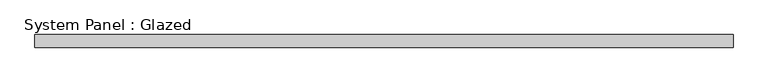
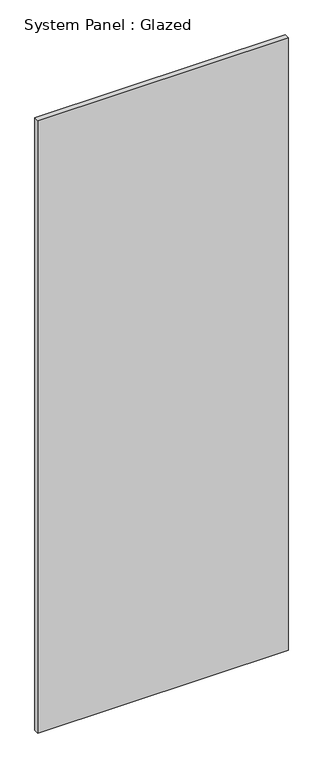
"""IFC4 building model written with IfcOpenShell, lengths in millimetres: plate geometry, System Panel : Glazed."""

from ifc_helpers import new_model, si_unit, origin, origin_with_axes, place, context, project, spatial, polyline, outline, extrude, source, transform, mapped, element, save


def system_panel_glazed_c99a592d(model_context):
    return source(origin(), model_context, "Body", "SweptSolid", [
        extrude(outline(polyline([(688.975, 19.05), (-688.975, 19.05), (-688.975, 44.45), (688.975, 44.45), (688.975, 19.05)])), origin_with_axes(), (0.0, 0.0, 1.0), 3562.35),
    ])


if __name__ == "__main__":
    model = new_model("IFC4")
    model_context = context("Model", 3, world=origin())
    ifc_project = project(units=[si_unit("LENGTHUNIT", "METRE", prefix="MILLI")], contexts=[model_context])
    site = spatial("IfcSite", under=ifc_project)
    building = spatial("IfcBuilding", under=site)
    placement = place(None, origin())
    system_panel_glazed_shape = system_panel_glazed_c99a592d(model_context)
    element("IfcPlate", 1, ObjectType="System Panel : Glazed", at=placement, inside=building, context=model_context, shape_type="MappedRepresentation", body=[
        mapped(system_panel_glazed_shape, transform((0.0, 0.0, 0.0), x_axis=(1.0, 0.0, 0.0), y_axis=(0.0, 1.0, 0.0), z_axis=(0.0, 0.0, 1.0))),
    ])
    save(model, "model.ifc")
